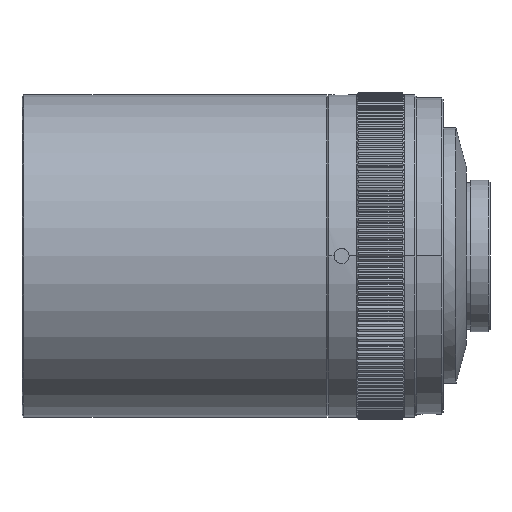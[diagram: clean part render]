
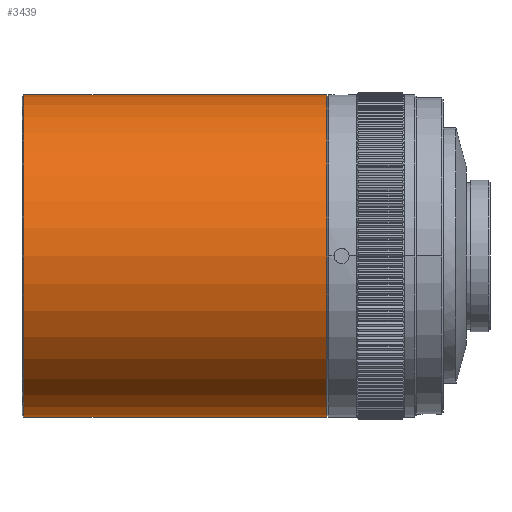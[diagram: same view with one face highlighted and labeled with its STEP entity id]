
A CAD part, front view. The second image highlights one B-rep face of the part: STEP entity #3439.
In plain terms, the highlighted cylindrical face has radius 27 mm (diameter 54 mm), a partial arc.
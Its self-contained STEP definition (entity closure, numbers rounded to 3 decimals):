
#1870 = ORIENTED_EDGE ( 'NONE', *, *, #3739, .F. ) ;
#1984 = LINE ( 'NONE', #2689, #8995 ) ;
#2210 = CARTESIAN_POINT ( 'NONE',  ( 16.278, 30.981, 27. ) ) ;
#2689 = CARTESIAN_POINT ( 'NONE',  ( 15.978, 30.981, 27. ) ) ;
#3330 = CARTESIAN_POINT ( 'NONE',  ( 15.978, 30.981, 0. ) ) ;
#3439 = ADVANCED_FACE ( 'NONE', ( #5208 ), #6870, .T. ) ;
#3739 = EDGE_CURVE ( 'NONE', #26869, #21279, #15876, .T. ) ;
#5208 = FACE_OUTER_BOUND ( 'NONE', #18163, .T. ) ;
#5242 = CARTESIAN_POINT ( 'NONE',  ( 16.278, 30.981, 0. ) ) ;
#5295 = EDGE_CURVE ( 'NONE', #10309, #25957, #9758, .T. ) ;
#5745 = EDGE_CURVE ( 'NONE', #21279, #25957, #12388, .T. ) ;
#6127 = AXIS2_PLACEMENT_3D ( 'NONE', #3330, #24607, #9770 ) ;
#6870 = CYLINDRICAL_SURFACE ( 'NONE', #6127, 27. ) ;
#7079 = CARTESIAN_POINT ( 'NONE',  ( 67.078, 30.981, -27. ) ) ;
#7251 = DIRECTION ( 'NONE',  ( -1., 0., 0. ) ) ;
#8995 = VECTOR ( 'NONE', #21840, 1000. ) ;
#9530 = CARTESIAN_POINT ( 'NONE',  ( 16.278, 30.981, -27. ) ) ;
#9758 = CIRCLE ( 'NONE', #14807, 27. ) ;
#9770 = DIRECTION ( 'NONE',  ( 0., 0., 1. ) ) ;
#10203 = ORIENTED_EDGE ( 'NONE', *, *, #5295, .T. ) ;
#10309 = VERTEX_POINT ( 'NONE', #2210 ) ;
#10781 = ORIENTED_EDGE ( 'NONE', *, *, #26411, .T. ) ;
#11382 = ORIENTED_EDGE ( 'NONE', *, *, #5745, .F. ) ;
#11835 = DIRECTION ( 'NONE',  ( 1., 0., 0. ) ) ;
#12105 = CARTESIAN_POINT ( 'NONE',  ( 67.078, 30.981, 0. ) ) ;
#12388 = LINE ( 'NONE', #26284, #22685 ) ;
#14807 = AXIS2_PLACEMENT_3D ( 'NONE', #5242, #22232, #27220 ) ;
#15876 = CIRCLE ( 'NONE', #26569, 27. ) ;
#18163 = EDGE_LOOP ( 'NONE', ( #11382, #1870, #10781, #10203 ) ) ;
#21279 = VERTEX_POINT ( 'NONE', #7079 ) ;
#21840 = DIRECTION ( 'NONE',  ( -1., 0., 0. ) ) ;
#22232 = DIRECTION ( 'NONE',  ( 1., 0., 0. ) ) ;
#22685 = VECTOR ( 'NONE', #7251, 1000. ) ;
#24111 = CARTESIAN_POINT ( 'NONE',  ( 67.078, 30.981, 27. ) ) ;
#24607 = DIRECTION ( 'NONE',  ( -1., 0., 0. ) ) ;
#25957 = VERTEX_POINT ( 'NONE', #9530 ) ;
#26284 = CARTESIAN_POINT ( 'NONE',  ( 15.978, 30.981, -27. ) ) ;
#26411 = EDGE_CURVE ( 'NONE', #26869, #10309, #1984, .T. ) ;
#26569 = AXIS2_PLACEMENT_3D ( 'NONE', #12105, #11835, #26940 ) ;
#26869 = VERTEX_POINT ( 'NONE', #24111 ) ;
#26940 = DIRECTION ( 'NONE',  ( 0., 1., 0. ) ) ;
#27220 = DIRECTION ( 'NONE',  ( 0., 0., -1. ) ) ;
